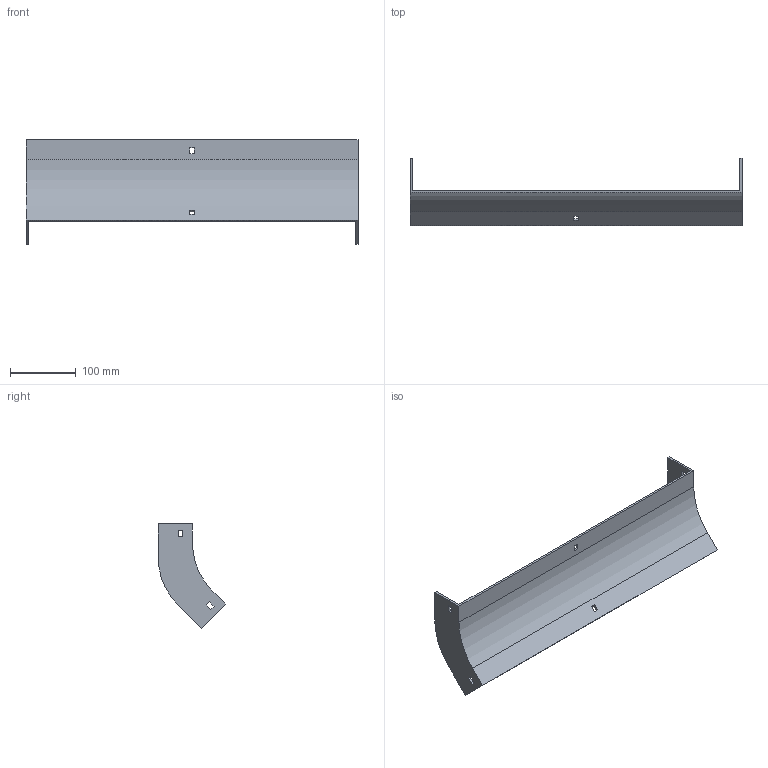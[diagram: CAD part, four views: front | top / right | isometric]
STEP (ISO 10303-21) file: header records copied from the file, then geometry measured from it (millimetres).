
FILE_DESCRIPTION (( 'STEP AP214' ), '1' );
FILE_NAME ('34F1B500.step', '2025-02-21T12:51:06', ( '' ), ( '' ), 'SwSTEP 2.0', 'SolidWorks 2023', '' );
FILE_SCHEMA (( 'AUTOMOTIVE_DESIGN' ));
Length unit declared in the file: millimetre
Products named in the file (1): 34F1B500
Bounding box: 504 x 102.5 x 158.69 mm (x, y, z)
Volume: 301826.3 mm3; surface area: 178633.9 mm2
Topology: 1 solids, 1 shells, 42 faces, 120 edges, 80 vertices
Faces by surface type: plane 38, cylinder 4
Entity records: 1399 total; most frequent: CARTESIAN_POINT 243, ORIENTED_EDGE 240, DIRECTION 214, EDGE_CURVE 120, VECTOR 112, LINE 112, VERTEX_POINT 80, EDGE_LOOP 54
